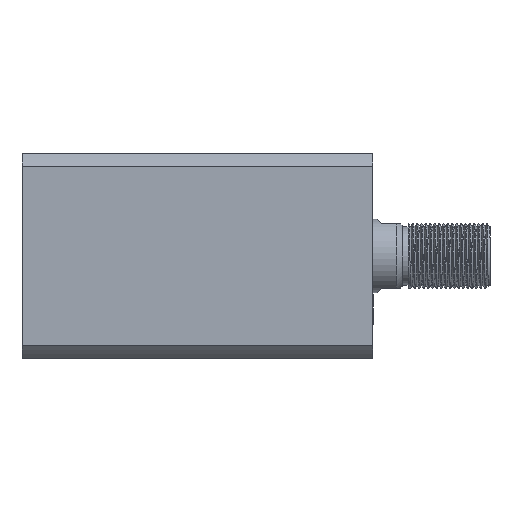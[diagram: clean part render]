
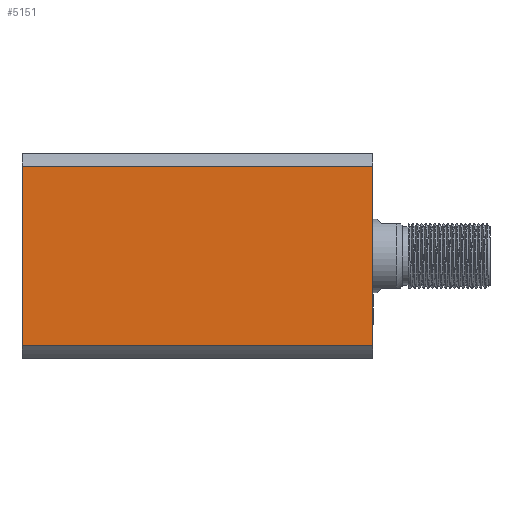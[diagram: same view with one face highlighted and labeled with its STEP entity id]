
A CAD part, left-side view. The second image highlights one B-rep face of the part: STEP entity #5151.
In plain terms, the highlighted planar face has unit normal (-1, 0, 0).
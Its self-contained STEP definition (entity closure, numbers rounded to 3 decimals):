
#343 = CARTESIAN_POINT ( 'NONE',  ( -35., 35., 120. ) ) ;
#406 = DIRECTION ( 'NONE',  ( 0., 0., 1. ) ) ;
#650 = DIRECTION ( 'NONE',  ( 0., -1., 0. ) ) ;
#723 = CARTESIAN_POINT ( 'NONE',  ( -35., -30.615, 0. ) ) ;
#1329 = VECTOR ( 'NONE', #406, 1000. ) ;
#1762 = EDGE_CURVE ( 'NONE', #10692, #11960, #6222, .T. ) ;
#2181 = VECTOR ( 'NONE', #6619, 1000. ) ;
#2212 = FACE_OUTER_BOUND ( 'NONE', #5274, .T. ) ;
#3057 = DIRECTION ( 'NONE',  ( 0., 0., -1. ) ) ;
#3679 = LINE ( 'NONE', #12099, #6137 ) ;
#3864 = ORIENTED_EDGE ( 'NONE', *, *, #10442, .F. ) ;
#3928 = CARTESIAN_POINT ( 'NONE',  ( -35., 35., 120. ) ) ;
#4130 = LINE ( 'NONE', #9734, #1329 ) ;
#4936 = PLANE ( 'NONE',  #7707 ) ;
#5151 = ADVANCED_FACE ( 'NONE', ( #2212 ), #4936, .F. ) ;
#5170 = CARTESIAN_POINT ( 'NONE',  ( -35., -30.615, 300. ) ) ;
#5274 = EDGE_LOOP ( 'NONE', ( #12538, #3864, #8637, #9126 ) ) ;
#5558 = VECTOR ( 'NONE', #3057, 1000. ) ;
#6137 = VECTOR ( 'NONE', #650, 1000. ) ;
#6222 = LINE ( 'NONE', #5170, #5558 ) ;
#6619 = DIRECTION ( 'NONE',  ( 0., -1., 0. ) ) ;
#6749 = CARTESIAN_POINT ( 'NONE',  ( -35., -30.615, 120. ) ) ;
#6822 = VERTEX_POINT ( 'NONE', #7417 ) ;
#7071 = DIRECTION ( 'NONE',  ( 0., 1., 0. ) ) ;
#7417 = CARTESIAN_POINT ( 'NONE',  ( -35., 30.615, 120. ) ) ;
#7707 = AXIS2_PLACEMENT_3D ( 'NONE', #3928, #13335, #7071 ) ;
#7777 = VERTEX_POINT ( 'NONE', #9482 ) ;
#8637 = ORIENTED_EDGE ( 'NONE', *, *, #8748, .F. ) ;
#8748 = EDGE_CURVE ( 'NONE', #7777, #6822, #4130, .T. ) ;
#9126 = ORIENTED_EDGE ( 'NONE', *, *, #9635, .T. ) ;
#9482 = CARTESIAN_POINT ( 'NONE',  ( -35., 30.615, 0. ) ) ;
#9635 = EDGE_CURVE ( 'NONE', #7777, #11960, #3679, .T. ) ;
#9734 = CARTESIAN_POINT ( 'NONE',  ( -35., 30.615, 300. ) ) ;
#10212 = LINE ( 'NONE', #343, #2181 ) ;
#10442 = EDGE_CURVE ( 'NONE', #6822, #10692, #10212, .T. ) ;
#10692 = VERTEX_POINT ( 'NONE', #6749 ) ;
#11960 = VERTEX_POINT ( 'NONE', #723 ) ;
#12099 = CARTESIAN_POINT ( 'NONE',  ( -35., 35., 0. ) ) ;
#12538 = ORIENTED_EDGE ( 'NONE', *, *, #1762, .F. ) ;
#13335 = DIRECTION ( 'NONE',  ( 1., 0., 0. ) ) ;
